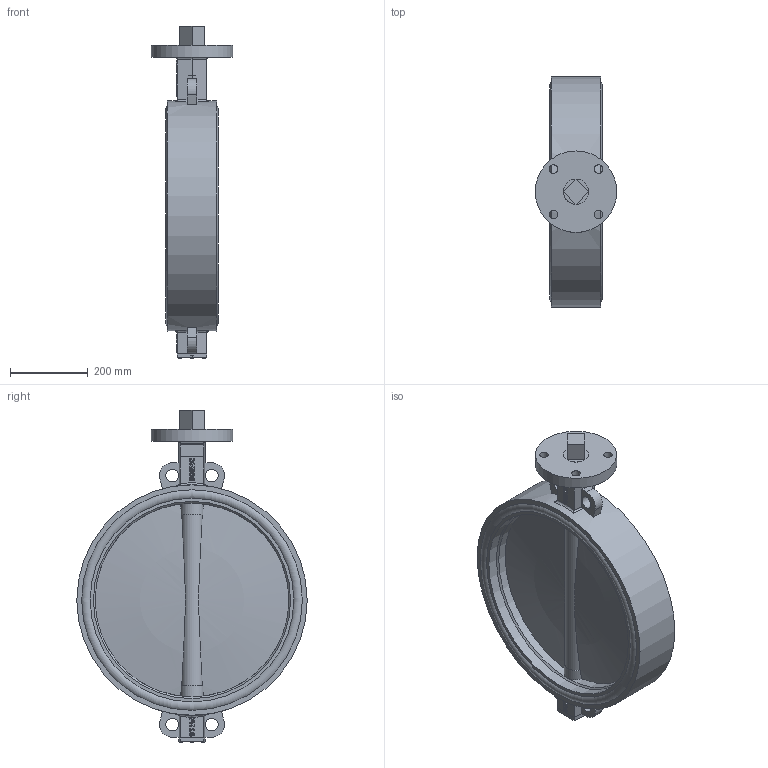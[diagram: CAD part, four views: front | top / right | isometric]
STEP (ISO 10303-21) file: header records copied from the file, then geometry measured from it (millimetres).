
FILE_DESCRIPTION(('STEP AP242'), '1');
FILE_NAME('Ïîâîðîòíûé çàòâîð ïîä ýëåêòðîïðèâîä', '', ('UNSPECIFIED'), ('UNSPECIFIED'), 'C3D Converter', 'C3D Toolkit', '');
FILE_SCHEMA(('AP242_MANAGED_MODEL_BASED_3D_ENGINEERING_MIM_LF { 1 0 10303 442 1 1 4 }'));
Length unit declared in the file: millimetre
Products named in the file (8): П
Assembly tree (11 placements, depth 2):
  (unnamed)
    (unnamed)
    П  x2
    (unnamed)
    (unnamed)
    (unnamed)
    (unnamed)
    (unnamed)  x4
Bounding box: 210 x 594 x 856 mm (x, y, z)
Volume: 18892083.7 mm3; surface area: 2134054.3 mm2
Topology: 11 solids, 11 shells, 542 faces, 1356 edges, 881 vertices
Faces by surface type: plane 263, extrusion 159, cylinder 79, cone 19, torus 10, bspline 8, sphere 4
Full cylindrical faces by diameter (mm): 5 x4, 6 x12, 10 x8, 12.564 x1, 22 x4, 33 x4, 46 x6, 60.325 x4, 65.054 x5, 210 x1, 500 x1, 508.467 x2, 525.4 x2, 547 x4, 568.6 x4, 594 x1
Entity records: 23120 total; most frequent: CARTESIAN_POINT 9998, ORIENTED_EDGE 2272, DIRECTION 1680, EDGE_CURVE 1136, VERTEX_POINT 789, VECTOR 732, EDGE_LOOP 617, LINE 573
